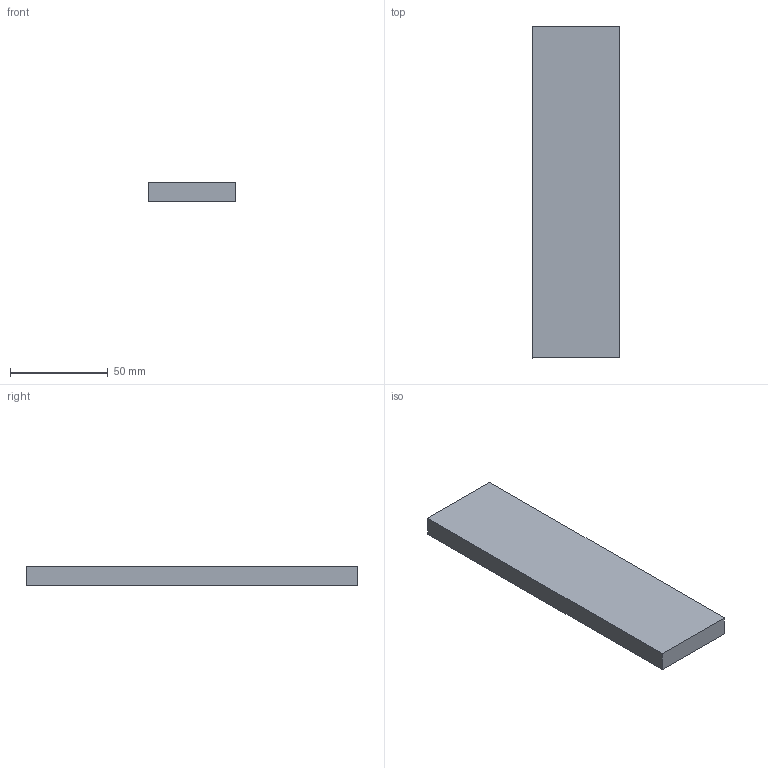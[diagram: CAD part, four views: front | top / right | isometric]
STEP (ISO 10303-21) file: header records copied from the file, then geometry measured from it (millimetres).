
FILE_DESCRIPTION(/* description */ (''),/* implementation_level */ '2;1');
FILE_NAME(/* name */ 'Pos125-Plaatwerk D= 10-S235JRG2-3st',/* time_stamp */ '2024-08-06T13:37:45+02:00',/* author */ (''),/* organization */ (''),/* preprocessor_version */ 'ST-DEVELOPER v16.5',/* originating_system */ 'HiCAD 2024 2901.2 Build 361',/* authorisation */ '');
FILE_SCHEMA (('AUTOMOTIVE_DESIGN { 1 0 10303 214 1 1 1 1 }'));
Length unit declared in the file: millimetre
Products named in the file (1): Pos125-Plaatwerk D= 10-S235JRG2-3st
Bounding box: 45 x 170 x 10 mm (x, y, z)
Volume: 76499.3 mm3; surface area: 19599.9 mm2
Topology: 1 solids, 1 shells, 6 faces, 12 edges, 8 vertices
Faces by surface type: plane 6
Entity records: 294 total; most frequent: CARTESIAN_POINT 26, PRESENTATION_STYLE_ASSIGNMENT 25, COLOUR_RGB 25, DRAUGHTING_PRE_DEFINED_CURVE_FONT 24, CURVE_STYLE 24, OVER_RIDING_STYLED_ITEM 24, ORIENTED_EDGE 24, DIRECTION 24
